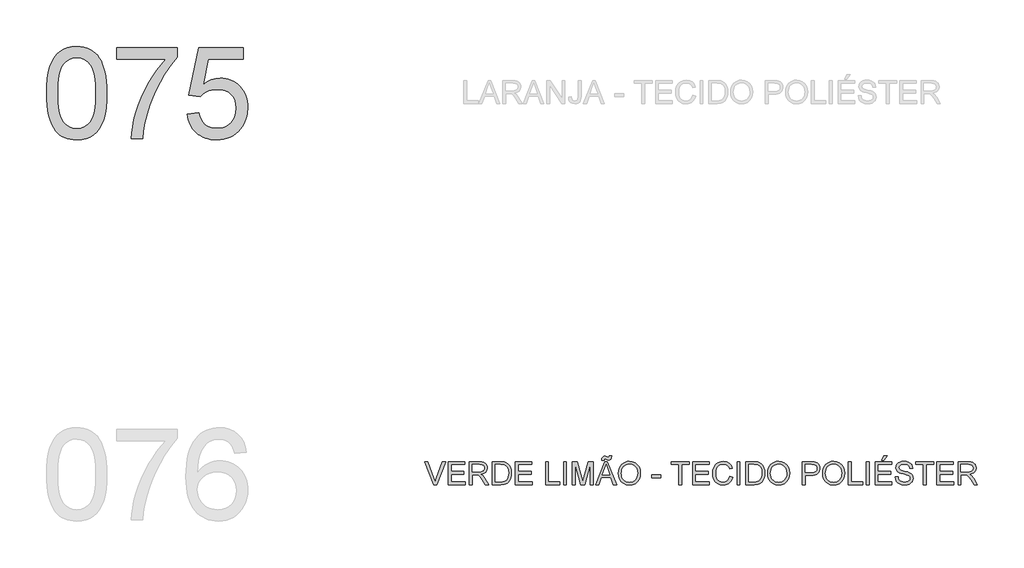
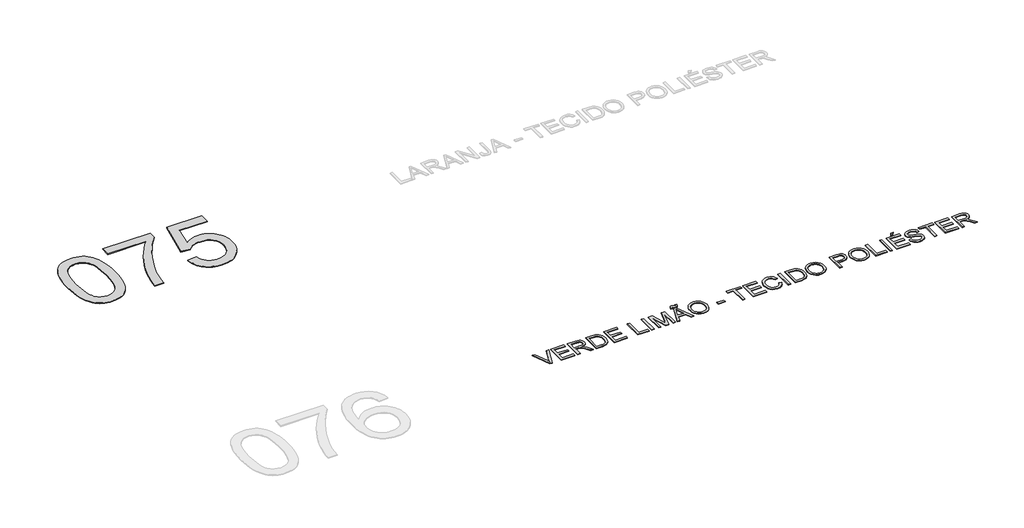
# One storey, part 7 of 39: 2 proxies.
"""IFC4 building model written with IfcOpenShell, lengths in millimetres."""

from ifc_helpers import new_model, si_unit, origin, origin_with_axes, place, context, project, spatial, polyline, outline, extrude, element, save

model = new_model("IFC4")

# Units and contexts
model_context = context("Model", 3, world=origin())
ifc_project = project(units=[si_unit("LENGTHUNIT", "METRE", prefix="MILLI")], contexts=[model_context])

# Site, building, storey
site = spatial("IfcSite", under=ifc_project)
building = spatial("IfcBuilding", under=site)
storey = spatial("IfcBuildingStorey", under=building, Name="Marelli - Linha PROFIT - Planta Baixa", Elevation=0.0)

# Proxies
placement = place(None, origin())
element("IfcBuildingElementProxy", 1, Name="1200mm Arial", ObjectType="1200mm Arial", at=placement, inside=storey, context=model_context, shape_type="SweptSolid", body=[
    extrude(outline(polyline([(-25181.1313792, -119395.792664), (-25178.3630672, -119294.4319773), (-25170.0581311, -119202.8385576), (-25156.2165711, -119121.0124048), (-25136.838387, -119048.953519), (-25112.0063523, -118986.073289), (-25081.8032405, -118931.7831035), (-25046.2290516, -118886.0829627), (-25005.2837855, -118848.9728664), (-24958.8294866, -118820.2596767), (-24906.728199, -118799.7502555), (-24848.9799228, -118787.4446027), (-24785.584658, -118783.3427185), (-24737.9439396, -118785.7707396), (-24692.7312424, -118793.0548031), (-24649.9465664, -118805.194909), (-24609.5899115, -118822.1910572), (-24572.6361651, -118843.7581391), (-24540.0602144, -118869.6110463), (-24511.8620595, -118899.7497788), (-24488.0417003, -118934.1743365), (-24467.4035204, -118972.7467637), (-24448.7519032, -119015.3291046), (-24417.4083572, -119112.5235278), (-24405.4337983, -119169.6831928), (-24396.8805419, -119235.9479371), (-24391.7485881, -119311.3177609), (-24390.0379368, -119395.792664), (-24392.7786576, -119496.5095573), (-24401.0008202, -119587.6431245), (-24414.7044246, -119669.1933658), (-24433.8894706, -119741.1602811), (-24458.5283672, -119804.0681023), (-24488.5935233, -119858.4410612), (-24524.0849388, -119904.2791578), (-24565.0026137, -119941.5823921), (-24611.5120949, -119970.4887199), (-24663.7789294, -119991.1360968), (-24721.8031171, -120003.524523), (-24785.584658, -120007.6539984), (-24828.2589694, -120005.8605737), (-24868.5788361, -120000.4802995), (-24906.544258, -119991.5131759), (-24942.1552351, -119978.9592028), (-24975.4117675, -119962.8183803), (-25006.3138551, -119943.0907083), (-25034.8614979, -119919.7761868), (-25061.054696, -119892.8748159), (-25089.1976686, -119850.2786794), (-25113.5882449, -119802.0999336), (-25134.2264248, -119748.3385785), (-25151.1122084, -119688.9946142), (-25164.2455956, -119624.0680406), (-25173.6265865, -119553.5588577), (-25179.255181, -119477.4670655), (-25181.1313792, -119395.792664)]), holes=[polyline([(-25030.446914, -119395.4983584), (-25026.03233, -119526.4919399), (-25012.7885782, -119632.5247279), (-25002.8557643, -119676.1808245), (-24990.7156585, -119713.5967226), (-24976.3682607, -119744.7724225), (-24959.8135709, -119769.7079239), (-24922.4367602, -119807.884878), (-24880.9396711, -119835.1541309), (-24835.3223037, -119851.5156826), (-24785.584658, -119856.9695332), (-24735.8470122, -119851.4972885), (-24690.2296448, -119835.0805545), (-24648.7325558, -119807.7193311), (-24611.3557451, -119769.4136183), (-24594.8010553, -119744.418336), (-24580.4536575, -119713.2104465), (-24568.3135516, -119675.7899498), (-24558.3807378, -119632.1568459), (-24545.1369859, -119526.2528166), (-24540.722402, -119395.4983584), (-24544.9898331, -119267.9720648), (-24557.7921266, -119163.8062779), (-24567.3938467, -119120.4835744), (-24579.1292823, -119083.0009976), (-24592.9984335, -119051.3585475), (-24609.0013003, -119025.5562241), (-24645.7527116, -118985.5122689), (-24687.7280473, -118956.9094438), (-24734.9273073, -118939.7477487), (-24787.3504916, -118934.0271837), (-24836.8306199, -118939.067167), (-24881.6754351, -118954.187117), (-24921.8849372, -118979.3870337), (-24957.4591261, -119014.666917), (-24974.5656389, -119043.2145599), (-24989.3912833, -119077.2068562), (-25001.9360594, -119116.6438061), (-25012.199967, -119161.5254095), (-25025.8851772, -119267.6225769), (-25030.446914, -119395.4983584)])]), origin_with_axes(), (0.0, 0.0, 1.0), 10.0),
    extrude(outline(polyline([(-24258.1890297, -118952.8627418), (-24258.1890297, -118802.1782766), (-23467.0955873, -118802.1782766), (-23467.0955873, -118924.0207934), (-23523.6114588, -118990.5246611), (-23579.8514188, -119066.7222194), (-23635.8154673, -119152.6134682), (-23691.5036043, -119248.1984076), (-23743.8991975, -119349.3383651), (-23789.9856144, -119451.8946683), (-23829.7628552, -119555.8673172), (-23863.2309197, -119661.2563118), (-23883.1701238, -119737.7941609), (-23899.1362024, -119817.9004653), (-23911.1291555, -119901.5752251), (-23919.1489829, -119988.8184403), (-24069.8334482, -119988.8184403), (-24065.0969675, -119914.8189769), (-24053.5362758, -119833.4986619), (-24035.1513731, -119744.8574952), (-24009.9422594, -119648.8954767), (-23978.2032402, -119550.1651463), (-23940.2286213, -119453.2190435), (-23896.0184025, -119358.0571684), (-23845.5725839, -119264.679521), (-23791.1628368, -119175.8268221), (-23735.0608326, -119094.2397926), (-23677.2665711, -119019.9184325), (-23617.7800525, -118952.8627418), (-24258.1890297, -118952.8627418)])), origin_with_axes(), (0.0, 0.0, 1.0), 10.0),
    extrude(outline(polyline([(-23335.2466802, -119668.6139517), (-23184.562215, -119649.7783935), (-23173.3050259, -119698.2192552), (-23156.8974889, -119740.2405761), (-23135.339604, -119775.8423562), (-23108.6313712, -119805.0245955), (-23076.8279727, -119827.7505057), (-23039.9845909, -119843.9832988), (-22998.1012257, -119853.7229746), (-22951.1778772, -119856.9695332), (-22893.788286, -119852.4537817), (-22843.1677235, -119838.9065272), (-22799.3161896, -119816.3277698), (-22762.2336845, -119784.7175093), (-22732.7479426, -119745.6392444), (-22711.6866984, -119700.6564734), (-22699.0499518, -119649.7691965), (-22694.837703, -119592.9774135), (-22698.7832374, -119539.3034304), (-22710.6198406, -119491.5891356), (-22730.3475126, -119449.8345291), (-22757.9662534, -119414.039611), (-22793.5680335, -119385.3264213), (-22837.2448233, -119364.817), (-22888.996623, -119352.5113473), (-22948.8234325, -119348.4094631), (-22987.1107511, -119350.0465379), (-23021.9215849, -119354.9577626), (-23053.2559339, -119363.143137), (-23081.1137979, -119374.6026611), (-23128.3866343, -119404.6954083), (-23165.7266568, -119442.5872538), (-23316.4111221, -119423.7516957), (-23184.562215, -118802.1782766), (-22600.6599122, -118802.1782766), (-22600.6599122, -118952.8627418), (-23062.7196982, -118952.8627418), (-23127.1726237, -119284.8394543), (-23073.9952813, -119246.7268796), (-23019.5303519, -119219.503612), (-22963.7778356, -119203.1696514), (-22906.7377322, -119197.7249978), (-22869.2988414, -119199.4126565), (-22833.3544712, -119204.4756324), (-22798.9046216, -119212.9139257), (-22765.9492927, -119224.7275363), (-22734.4884843, -119239.9164642), (-22704.5221965, -119258.4807093), (-22676.0504294, -119280.4202718), (-22649.0731828, -119305.7351516), (-22624.4825707, -119333.7033803), (-22603.1707069, -119363.6029895), (-22585.1375913, -119395.4339791), (-22570.383224, -119429.1963492), (-22558.907605, -119464.8900998), (-22550.7107343, -119502.5152308), (-22545.7926119, -119542.0717424), (-22544.1532378, -119583.5596344), (-22550.0577438, -119661.6241938), (-22557.4383763, -119698.6147284), (-22567.7712619, -119734.2440996), (-22581.0564004, -119768.5123075), (-22597.293792, -119801.4193519), (-22616.4834366, -119832.965233), (-22638.6253341, -119863.1499507), (-22668.6261108, -119897.0180869), (-22701.2388497, -119926.3704716), (-22736.4635508, -119951.2071048), (-22774.300214, -119971.5279865), (-22814.7488393, -119987.3331167), (-22857.8094269, -119998.6224954), (-22903.4819766, -120005.3961227), (-22951.7664884, -120007.6539984), (-23029.5275452, -120001.8506599), (-23065.5868785, -119994.5964869), (-23099.7654151, -119984.4406445), (-23132.063155, -119971.383133), (-23162.4800982, -119955.4239522), (-23191.0162447, -119936.5631021), (-23217.6715945, -119914.8005828), (-23242.0092878, -119890.6422321), (-23263.5924646, -119864.5938875), (-23282.421125, -119836.6555493), (-23298.4952689, -119806.8272173), (-23311.8148964, -119775.1088915), (-23322.3800074, -119741.500572), (-23335.2466802, -119668.6139517)])), origin_with_axes(), (0.0, 0.0, 1.0), 10.0),
])
element("IfcBuildingElementProxy", 2, Name="300mm Arial", ObjectType="300mm Arial", at=placement, inside=storey, context=model_context, shape_type="SweptSolid", body=[
    extrude(outline(polyline([(-20106.6509498, -124530.5663201), (-20226.5804802, -124229.1973896), (-20186.2606136, -124229.1973896), (-20105.9887622, -124446.3213432), (-20089.728378, -124495.2496485), (-20073.688723, -124446.3213432), (-19993.1961425, -124229.1973896), (-19952.8762758, -124229.1973896), (-20067.7290347, -124530.5663201), (-20106.6509498, -124530.5663201)])), origin_with_axes(), (0.0, 0.0, 1.0), 10.0),
    extrude(outline(polyline([(-19917.8539099, -124530.5663201), (-19917.8539099, -124229.1973896), (-19701.2449911, -124229.1973896), (-19701.2449911, -124266.8685059), (-19880.1827936, -124266.8685059), (-19880.1827936, -124356.3374072), (-19710.6627702, -124356.3374072), (-19710.6627702, -124394.0085235), (-19880.1827936, -124394.0085235), (-19880.1827936, -124492.8952038), (-19696.5361016, -124492.8952038), (-19696.5361016, -124530.5663201), (-19917.8539099, -124530.5663201)])), origin_with_axes(), (0.0, 0.0, 1.0), 10.0),
    extrude(outline(polyline([(-19640.0294271, -124530.5663201), (-19640.0294271, -124229.1973896), (-19510.1670828, -124229.1973896), (-19475.2642785, -124231.2299376), (-19449.8712238, -124237.3275817), (-19431.3115772, -124248.5847708), (-19416.908997, -124266.0959537), (-19407.6659619, -124287.8101885), (-19404.5849502, -124311.6765329), (-19409.6893129, -124341.3646099), (-19425.0024009, -124365.9759154), (-19436.6021801, -124376.0052983), (-19450.9840669, -124384.0205273), (-19488.0941631, -124394.0085235), (-19466.683431, -124410.1217548), (-19436.1492254, -124448.8965171), (-19385.8965449, -124530.5663201), (-19429.6745023, -124530.5663201), (-19468.890723, -124468.0999573), (-19497.2176366, -124426.750021), (-19517.1200525, -124407.2154871), (-19535.0359057, -124400.0417882), (-19556.8880962, -124398.717413), (-19602.3583108, -124398.717413), (-19602.3583108, -124530.5663201), (-19640.0294271, -124530.5663201)]), holes=[polyline([(-19602.3583108, -124361.0462967), (-19518.0397575, -124361.0462967), (-19493.8239252, -124359.7127245), (-19475.0343523, -124355.7120078), (-19460.8892896, -124348.7774322), (-19450.6069878, -124338.6422832), (-19444.3437968, -124326.3826157), (-19442.2560665, -124313.0744845), (-19446.2383891, -124294.6987789), (-19458.1853569, -124279.8915286), (-19478.7407634, -124270.1242616), (-19508.548402, -124266.8685059), (-19602.3583108, -124266.8685059), (-19602.3583108, -124361.0462967)])]), origin_with_axes(), (0.0, 0.0, 1.0), 10.0),
    extrude(outline(polyline([(-19338.6604967, -124530.5663201), (-19338.6604967, -124229.1973896), (-19234.6970448, -124229.1973896), (-19180.9126971, -124233.5383972), (-19156.8900029, -124241.9077126), (-19136.6197049, -124255.0962821), (-19115.7791899, -124278.0521186), (-19100.9351514, -124306.5997614), (-19092.0508012, -124340.1873876), (-19089.0893511, -124378.2631741), (-19091.094308, -124410.6091985), (-19097.1091786, -124439.0740679), (-19106.2694403, -124463.3082943), (-19117.7105704, -124482.9623899), (-19130.8807458, -124498.477813), (-19145.2281436, -124510.2960221), (-19161.7000599, -124519.0608107), (-19181.2437909, -124525.4159721), (-19229.6938497, -124530.5663201), (-19338.6604967, -124530.5663201)]), holes=[polyline([(-19300.9893804, -124492.8952038), (-19234.3291628, -124492.8952038), (-19206.7564073, -124491.5340404), (-19185.8423159, -124487.4505502), (-19170.0601783, -124480.8838566), (-19157.8832842, -124472.0730828), (-19144.7958823, -124455.7667134), (-19134.9642359, -124434.6594839), (-19128.8114096, -124408.6594239), (-19126.7604675, -124377.6745629), (-19130.7795782, -124336.6189322), (-19142.8369106, -124306.3054558), (-19160.6515963, -124285.4833349), (-19181.9427667, -124272.9017706), (-19203.6110162, -124268.3768221), (-19235.3592324, -124266.8685059), (-19300.9893804, -124266.8685059), (-19300.9893804, -124492.8952038)])]), origin_with_axes(), (0.0, 0.0, 1.0), 10.0),
    extrude(outline(polyline([(-19037.2915662, -124530.5663201), (-19037.2915662, -124229.1973896), (-18820.6826475, -124229.1973896), (-18820.6826475, -124266.8685059), (-18999.6204499, -124266.8685059), (-18999.6204499, -124356.3374072), (-18830.1004265, -124356.3374072), (-18830.1004265, -124394.0085235), (-18999.6204499, -124394.0085235), (-18999.6204499, -124492.8952038), (-18815.9737579, -124492.8952038), (-18815.9737579, -124530.5663201), (-19037.2915662, -124530.5663201)])), origin_with_axes(), (0.0, 0.0, 1.0), 10.0),
    extrude(outline(polyline([(-18641.744845, -124530.5663201), (-18641.744845, -124229.1973896), (-18604.0737287, -124229.1973896), (-18604.0737287, -124492.8952038), (-18453.3892635, -124492.8952038), (-18453.3892635, -124530.5663201), (-18641.744845, -124530.5663201)])), origin_with_axes(), (0.0, 0.0, 1.0), 10.0),
    extrude(outline(polyline([(-18406.3003681, -124530.5663201), (-18406.3003681, -124229.1973896), (-18368.6292518, -124229.1973896), (-18368.6292518, -124530.5663201), (-18406.3003681, -124530.5663201)])), origin_with_axes(), (0.0, 0.0, 1.0), 10.0),
    extrude(outline(polyline([(-18293.2870192, -124530.5663201), (-18293.2870192, -124229.1973896), (-18228.4662116, -124229.1973896), (-18166.8091892, -124441.6124536), (-18154.3747778, -124485.9790223), (-18140.9102968, -124437.9336337), (-18080.283344, -124229.1973896), (-18015.4625364, -124229.1973896), (-18015.4625364, -124530.5663201), (-18053.1336527, -124530.5663201), (-18053.1336527, -124266.8685059), (-18128.8437673, -124530.5663201), (-18179.9057883, -124530.5663201), (-18255.6159029, -124266.8685059), (-18255.6159029, -124530.5663201), (-18293.2870192, -124530.5663201)])), origin_with_axes(), (0.0, 0.0, 1.0), 10.0),
    extrude(outline(polyline([(-17907.158077, -124210.3618315), (-17904.3069916, -124187.2036599), (-17895.4594296, -124169.2326244), (-17882.1237073, -124157.6995239), (-17865.5138352, -124153.855157), (-17851.6078958, -124156.8901835), (-17835.3475116, -124165.9952628), (-17820.117197, -124172.6907152), (-17812.1341577, -124168.9015306), (-17808.2713967, -124153.855157), (-17775.30917, -124153.855157), (-17778.5925168, -124178.5768271), (-17787.2653348, -124196.2351629), (-17800.1687958, -124206.8301643), (-17816.1440714, -124210.3618315), (-17830.1419814, -124207.4923519), (-17845.942513, -124198.8839132), (-17861.8350152, -124191.5262733), (-17870.8113359, -124196.3087393), (-17874.1958503, -124210.3618315), (-17907.158077, -124210.3618315)])), origin_with_axes(), (0.0, 0.0, 1.0), 10.0),
    extrude(outline(polyline([(-17984.6340252, -124530.5663201), (-17864.3366128, -124229.1973896), (-17832.2573028, -124229.1973896), (-17711.9598904, -124530.5663201), (-17751.7647223, -124530.5663201), (-17786.2720534, -124436.3885293), (-17910.3954386, -124436.3885293), (-17944.8291933, -124530.5663201), (-17984.6340252, -124530.5663201)]), holes=[polyline([(-17896.5630756, -124398.717413), (-17800.03084, -124398.717413), (-17827.1805313, -124324.6259792), (-17848.2969578, -124266.8685059), (-17867.0589396, -124318.1512561), (-17896.5630756, -124398.717413)])]), origin_with_axes(), (0.0, 0.0, 1.0), 10.0),
    extrude(outline(polyline([(-17685.8402687, -124383.8549804), (-17683.3294741, -124348.5061192), (-17675.7970903, -124317.213157), (-17663.2431172, -124289.9760937), (-17645.6675549, -124266.7949295), (-17624.1234655, -124248.2858666), (-17599.6639114, -124235.0651074), (-17572.2888924, -124227.1326519), (-17541.9984086, -124224.4885001), (-17502.4694882, -124229.454907), (-17467.024058, -124244.3541278), (-17437.5934984, -124268.1376988), (-17416.1091899, -124299.7571563), (-17402.9758027, -124337.68579), (-17398.5980069, -124380.3968896), (-17403.2057289, -124423.6782064), (-17417.0288949, -124462.140269), (-17439.3041497, -124493.8149087), (-17469.2681382, -124516.733957), (-17504.4100658, -124530.6398965), (-17542.2191378, -124535.2752096), (-17582.3550635, -124530.1524528), (-17618.0028288, -124514.7841825), (-17647.359812, -124490.5591531), (-17668.6233914, -124458.8661192), (-17681.5360494, -124422.3998164), (-17685.8402687, -124383.8549804)]), holes=[polyline([(-17648.1691524, -124384.2228624), (-17646.2860565, -124409.1974513), (-17640.6367686, -124431.3669401), (-17631.2212888, -124450.7313286), (-17618.039617, -124467.2906169), (-17602.0160569, -124480.5527628), (-17584.0749118, -124490.0257242), (-17564.2161819, -124495.709501), (-17542.439867, -124497.6040933), (-17520.2910717, -124495.6911069), (-17500.1978169, -124489.9521478), (-17482.1601029, -124480.3872159), (-17466.1779294, -124466.9963113), (-17453.0928267, -124450.0875351), (-17443.7463248, -124429.9689885), (-17438.1384236, -124406.6406715), (-17436.2691232, -124380.102584), (-17439.4696966, -124346.7540812), (-17449.0714166, -124317.9305269), (-17464.8259631, -124294.358488), (-17486.4850156, -124276.7645316), (-17512.6138343, -124265.8108452), (-17541.7776794, -124262.1596164), (-17562.7975369, -124263.9185522), (-17582.2998812, -124269.1953595), (-17600.2847122, -124277.9900385), (-17616.75203, -124290.302589), (-17630.4970211, -124306.7262208), (-17640.3148718, -124327.8541437), (-17646.2055823, -124353.6863575), (-17648.1691524, -124384.2228624)])]), origin_with_axes(), (0.0, 0.0, 1.0), 10.0),
    extrude(outline(polyline([(-17252.6224312, -124441.0974188), (-17252.6224312, -124403.4263025), (-17134.9001928, -124403.4263025), (-17134.9001928, -124441.0974188), (-17252.6224312, -124441.0974188)])), origin_with_axes(), (0.0, 0.0, 1.0), 10.0),
    extrude(outline(polyline([(-16894.7468263, -124530.5663201), (-16894.7468263, -124266.8685059), (-16993.6335066, -124266.8685059), (-16993.6335066, -124229.1973896), (-16758.1890297, -124229.1973896), (-16758.1890297, -124266.8685059), (-16857.07571, -124266.8685059), (-16857.07571, -124530.5663201), (-16894.7468263, -124530.5663201)])), origin_with_axes(), (0.0, 0.0, 1.0), 10.0),
    extrude(outline(polyline([(-16715.8090239, -124530.5663201), (-16715.8090239, -124229.1973896), (-16499.2001051, -124229.1973896), (-16499.2001051, -124266.8685059), (-16678.1379076, -124266.8685059), (-16678.1379076, -124356.3374072), (-16508.6178842, -124356.3374072), (-16508.6178842, -124394.0085235), (-16678.1379076, -124394.0085235), (-16678.1379076, -124492.8952038), (-16494.4912156, -124492.8952038), (-16494.4912156, -124530.5663201), (-16715.8090239, -124530.5663201)])), origin_with_axes(), (0.0, 0.0, 1.0), 10.0),
    extrude(outline(polyline([(-16226.0845119, -124423.4390831), (-16188.4133956, -124433.1511677), (-16195.8676045, -124456.5783531), (-16205.7958198, -124477.0486868), (-16218.1980416, -124494.5621691), (-16233.0742698, -124509.1187997), (-16250.0888121, -124520.5622291), (-16268.9059761, -124528.7361071), (-16289.5257619, -124533.640434), (-16311.9481696, -124535.2752096), (-16355.6433535, -124530.3271968), (-16390.3438227, -124515.4831583), (-16416.941691, -124491.2581289), (-16436.3290721, -124458.1671434), (-16448.1656753, -124419.2636224), (-16452.1112097, -124377.6009865), (-16447.6506405, -124333.6574821), (-16434.268933, -124295.7104543), (-16412.6650628, -124264.9647166), (-16383.5380058, -124242.6250824), (-16348.9938865, -124229.0226457), (-16311.1388292, -124224.4885001), (-16269.8348782, -124230.3562179), (-16251.866142, -124237.6908652), (-16235.686232, -124247.9593714), (-16221.5618626, -124260.8904235), (-16209.7597483, -124276.2127086), (-16193.1222851, -124314.0309777), (-16230.7934014, -124323.0072984), (-16243.8532122, -124295.5357104), (-16261.695489, -124276.6909552), (-16284.5409609, -124265.7924511), (-16312.6103571, -124262.1596164), (-16344.9655786, -124266.1879242), (-16371.5450528, -124278.2728478), (-16391.7141832, -124297.1451941), (-16404.8383733, -124321.5357704), (-16412.0396634, -124349.1085259), (-16414.4400934, -124377.5274101), (-16411.598205, -124412.3290468), (-16403.0725398, -124442.421794), (-16388.541201, -124466.6560205), (-16367.6822918, -124483.8820949), (-16342.6755132, -124494.1735937), (-16315.7005659, -124497.6040933), (-16284.2558524, -124492.931992), (-16258.0534573, -124478.9156879), (-16238.270603, -124455.702334), (-16226.0845119, -124423.4390831)])), origin_with_axes(), (0.0, 0.0, 1.0), 10.0),
    extrude(outline(polyline([(-16131.9067211, -124530.5663201), (-16131.9067211, -124229.1973896), (-16094.2356048, -124229.1973896), (-16094.2356048, -124530.5663201), (-16131.9067211, -124530.5663201)])), origin_with_axes(), (0.0, 0.0, 1.0), 10.0),
    extrude(outline(polyline([(-16018.8933722, -124530.5663201), (-16018.8933722, -124229.1973896), (-15914.9299204, -124229.1973896), (-15861.1455727, -124233.5383972), (-15837.1228784, -124241.9077126), (-15816.8525804, -124255.0962821), (-15796.0120654, -124278.0521186), (-15781.1680269, -124306.5997614), (-15772.2836767, -124340.1873876), (-15769.3222267, -124378.2631741), (-15771.3271835, -124410.6091985), (-15777.3420542, -124439.0740679), (-15786.5023158, -124463.3082943), (-15797.9434459, -124482.9623899), (-15811.1136213, -124498.477813), (-15825.4610191, -124510.2960221), (-15841.9329355, -124519.0608107), (-15861.4766665, -124525.4159721), (-15909.9267252, -124530.5663201), (-16018.8933722, -124530.5663201)]), holes=[polyline([(-15981.2222559, -124492.8952038), (-15914.5620384, -124492.8952038), (-15886.9892828, -124491.5340404), (-15866.0751914, -124487.4505502), (-15850.2930538, -124480.8838566), (-15838.1161598, -124472.0730828), (-15825.0287578, -124455.7667134), (-15815.1971115, -124434.6594839), (-15809.0442851, -124408.6594239), (-15806.993343, -124377.6745629), (-15811.0124538, -124336.6189322), (-15823.0697862, -124306.3054558), (-15840.8844718, -124285.4833349), (-15862.1756423, -124272.9017706), (-15883.8438918, -124268.3768221), (-15915.592108, -124266.8685059), (-15981.2222559, -124266.8685059), (-15981.2222559, -124492.8952038)])]), origin_with_axes(), (0.0, 0.0, 1.0), 10.0),
    extrude(outline(polyline([(-15731.6511104, -124383.8549804), (-15729.1403157, -124348.5061192), (-15721.6079319, -124317.213157), (-15709.0539588, -124289.9760937), (-15691.4783965, -124266.7949295), (-15669.9343071, -124248.2858666), (-15645.474753, -124235.0651074), (-15618.099734, -124227.1326519), (-15587.8092502, -124224.4885001), (-15548.2803299, -124229.454907), (-15512.8348996, -124244.3541278), (-15483.40434, -124268.1376988), (-15461.9200315, -124299.7571563), (-15448.7866443, -124337.68579), (-15444.4088485, -124380.3968896), (-15449.0165705, -124423.6782064), (-15462.8397365, -124462.140269), (-15485.1149913, -124493.8149087), (-15515.0789798, -124516.733957), (-15550.2209074, -124530.6398965), (-15588.0299794, -124535.2752096), (-15628.1659051, -124530.1524528), (-15663.8136705, -124514.7841825), (-15693.1706537, -124490.5591531), (-15714.434233, -124458.8661192), (-15727.346891, -124422.3998164), (-15731.6511104, -124383.8549804)]), holes=[polyline([(-15693.9799941, -124384.2228624), (-15692.0968981, -124409.1974513), (-15686.4476102, -124431.3669401), (-15677.0321304, -124450.7313286), (-15663.8504587, -124467.2906169), (-15647.8268985, -124480.5527628), (-15629.8857534, -124490.0257242), (-15610.0270235, -124495.709501), (-15588.2507086, -124497.6040933), (-15566.1019133, -124495.6911069), (-15546.0086585, -124489.9521478), (-15527.9709445, -124480.3872159), (-15511.988771, -124466.9963113), (-15498.9036683, -124450.0875351), (-15489.5571664, -124429.9689885), (-15483.9492652, -124406.6406715), (-15482.0799648, -124380.102584), (-15485.2805382, -124346.7540812), (-15494.8822583, -124317.9305269), (-15510.6368047, -124294.358488), (-15532.2958572, -124276.7645316), (-15558.4246759, -124265.8108452), (-15587.5885211, -124262.1596164), (-15608.6083786, -124263.9185522), (-15628.1107228, -124269.1953595), (-15646.0955539, -124277.9900385), (-15662.5628717, -124290.302589), (-15676.3078627, -124306.7262208), (-15686.1257135, -124327.8541437), (-15692.0164239, -124353.6863575), (-15693.9799941, -124384.2228624)])]), origin_with_axes(), (0.0, 0.0, 1.0), 10.0),
    extrude(outline(polyline([(-15274.8888252, -124530.5663201), (-15274.8888252, -124229.1973896), (-15163.1998514, -124229.1973896), (-15118.1710952, -124232.0668692), (-15098.0939353, -124237.4287493), (-15081.5668367, -124246.1567496), (-15068.2587055, -124258.6463433), (-15057.838448, -124275.2930036), (-15051.1062075, -124294.9287051), (-15048.8621273, -124316.3854225), (-15050.3773413, -124334.8852883), (-15054.9229832, -124351.9044291), (-15062.499053, -124367.4428449), (-15073.1055508, -124381.5005356), (-15087.66678, -124393.1531978), (-15107.1070442, -124401.476528), (-15131.4263433, -124406.470526), (-15160.6246774, -124408.1351921), (-15237.2177088, -124408.1351921), (-15237.2177088, -124530.5663201), (-15274.8888252, -124530.5663201)]), holes=[polyline([(-15237.2177088, -124370.4640758), (-15158.4173855, -124370.4640758), (-15125.0137003, -124367.005985), (-15102.9407806, -124356.6317127), (-15090.6351279, -124339.9850525), (-15086.5332436, -124317.7097977), (-15088.9520677, -124300.7872259), (-15096.2085401, -124286.5134045), (-15107.4013498, -124275.7712502), (-15121.629186, -124269.4436799), (-15159.3003023, -124266.8685059), (-15237.2177088, -124266.8685059), (-15237.2177088, -124370.4640758)])]), origin_with_axes(), (0.0, 0.0, 1.0), 10.0),
    extrude(outline(polyline([(-15011.191011, -124383.8549804), (-15008.6802164, -124348.5061192), (-15001.1478325, -124317.213157), (-14988.5938595, -124289.9760937), (-14971.0182971, -124266.7949295), (-14949.4742078, -124248.2858666), (-14925.0146536, -124235.0651074), (-14897.6396347, -124227.1326519), (-14867.3491509, -124224.4885001), (-14827.8202305, -124229.454907), (-14792.3748003, -124244.3541278), (-14762.9442407, -124268.1376988), (-14741.4599321, -124299.7571563), (-14728.3265449, -124337.68579), (-14723.9487492, -124380.3968896), (-14728.5564712, -124423.6782064), (-14742.3796371, -124462.140269), (-14764.6548919, -124493.8149087), (-14794.6188804, -124516.733957), (-14829.760808, -124530.6398965), (-14867.5698801, -124535.2752096), (-14907.7058058, -124530.1524528), (-14943.3535711, -124514.7841825), (-14972.7105543, -124490.5591531), (-14993.9741336, -124458.8661192), (-15006.8867917, -124422.3998164), (-15011.191011, -124383.8549804)]), holes=[polyline([(-14973.5198947, -124384.2228624), (-14971.6367987, -124409.1974513), (-14965.9875109, -124431.3669401), (-14956.572031, -124450.7313286), (-14943.3903593, -124467.2906169), (-14927.3667991, -124480.5527628), (-14909.4256541, -124490.0257242), (-14889.5669241, -124495.709501), (-14867.7906093, -124497.6040933), (-14845.6418139, -124495.6911069), (-14825.5485592, -124489.9521478), (-14807.5108451, -124480.3872159), (-14791.5286717, -124466.9963113), (-14778.443569, -124450.0875351), (-14769.097067, -124429.9689885), (-14763.4891659, -124406.6406715), (-14761.6198655, -124380.102584), (-14764.8204388, -124346.7540812), (-14774.4221589, -124317.9305269), (-14790.1767054, -124294.358488), (-14811.8357578, -124276.7645316), (-14837.9645765, -124265.8108452), (-14867.1284217, -124262.1596164), (-14888.1482792, -124263.9185522), (-14907.6506235, -124269.1953595), (-14925.6354545, -124277.9900385), (-14942.1027723, -124290.302589), (-14955.8477634, -124306.7262208), (-14965.6656141, -124327.8541437), (-14971.5563246, -124353.6863575), (-14973.5198947, -124384.2228624)])]), origin_with_axes(), (0.0, 0.0, 1.0), 10.0),
    extrude(outline(polyline([(-14672.1509643, -124530.5663201), (-14672.1509643, -124229.1973896), (-14634.4798479, -124229.1973896), (-14634.4798479, -124492.8952038), (-14483.7953827, -124492.8952038), (-14483.7953827, -124530.5663201), (-14672.1509643, -124530.5663201)])), origin_with_axes(), (0.0, 0.0, 1.0), 10.0),
    extrude(outline(polyline([(-14436.7064873, -124530.5663201), (-14436.7064873, -124229.1973896), (-14399.035371, -124229.1973896), (-14399.035371, -124530.5663201), (-14436.7064873, -124530.5663201)])), origin_with_axes(), (0.0, 0.0, 1.0), 10.0),
    extrude(outline(polyline([(-14323.6931384, -124530.5663201), (-14323.6931384, -124229.1973896), (-14107.0842197, -124229.1973896), (-14107.0842197, -124266.8685059), (-14286.0220221, -124266.8685059), (-14286.0220221, -124356.3374072), (-14116.5019987, -124356.3374072), (-14116.5019987, -124394.0085235), (-14286.0220221, -124394.0085235), (-14286.0220221, -124492.8952038), (-14102.3753301, -124492.8952038), (-14102.3753301, -124530.5663201), (-14323.6931384, -124530.5663201)])), origin_with_axes(), (0.0, 0.0, 1.0), 10.0),
    extrude(outline(polyline([(-14238.9331267, -124210.3618315), (-14210.6797895, -124153.855157), (-14163.5908941, -124153.855157), (-14210.6797895, -124210.3618315), (-14238.9331267, -124210.3618315)])), origin_with_axes(), (0.0, 0.0, 1.0), 10.0),
    extrude(outline(polyline([(-14059.9953243, -124426.9707502), (-14022.324208, -124426.9707502), (-14018.0015945, -124447.8756446), (-14010.1841021, -124464.6786547), (-13997.988814, -124478.0143771), (-13980.5328133, -124488.517408), (-13959.1956576, -124495.332422), (-13935.3569043, -124497.6040933), (-13914.3692365, -124495.884245), (-13895.9935308, -124490.7247), (-13881.1035071, -124482.5577197), (-13870.572885, -124471.8155654), (-13864.309694, -124459.4823216), (-13862.2219637, -124446.5420724), (-13863.7854622, -124433.932917), (-13868.4759576, -124423.0344129), (-13878.0041013, -124413.7361954), (-13894.0805445, -124405.9279001), (-13948.9317499, -124391.5437141), (-13984.9382002, -124382.0247675), (-14007.9768102, -124372.9656733), (-14026.7295949, -124360.2921386), (-14040.0193319, -124344.9330653), (-14047.9379919, -124327.2195472), (-14050.5775452, -124307.4826782), (-14047.3125925, -124285.4189555), (-14037.5177344, -124264.845155), (-14021.4504882, -124247.4075484), (-13999.3683715, -124234.7524077), (-13972.8624737, -124227.054477), (-13943.5238846, -124224.4885001), (-13911.7388802, -124227.1740386), (-13883.9270014, -124235.2306543), (-13861.0815295, -124248.4928003), (-13844.1957459, -124266.7949295), (-13833.5087739, -124288.9966079), (-13829.2597369, -124313.9574013), (-13866.9308532, -124313.9574013), (-13873.8470347, -124291.4798114), (-13888.2680089, -124275.2562154), (-13910.8007811, -124265.4337661), (-13942.0523566, -124262.1596164), (-13974.0396961, -124265.3969779), (-13995.9838571, -124275.1090626), (-14008.675786, -124289.4012781), (-14012.9064289, -124306.3790322), (-14009.9081906, -124320.8551887), (-14000.9134759, -124332.4986539), (-13979.6498965, -124342.9097143), (-13939.4036063, -124353.541504), (-13897.869729, -124363.6398648), (-13872.7433887, -124372.4506385), (-13851.2682773, -124386.1174547), (-13836.286283, -124402.9848441), (-13827.4847063, -124422.868866), (-13824.5508474, -124445.5855792), (-13827.9261647, -124468.8081301), (-13838.0521166, -124490.6511236), (-13854.5148359, -124509.4498935), (-13876.9004553, -124523.539774), (-13903.8202203, -124532.3413507), (-13933.8853763, -124535.2752096), (-13970.7931375, -124532.1114244), (-14001.1709933, -124522.620069), (-14025.3684315, -124506.764355), (-14043.7349401, -124484.5074943), (-14055.525558, -124457.3945912), (-14059.9953243, -124426.9707502)])), origin_with_axes(), (0.0, 0.0, 1.0), 10.0),
    extrude(outline(polyline([(-13692.7019403, -124530.5663201), (-13692.7019403, -124266.8685059), (-13791.5886206, -124266.8685059), (-13791.5886206, -124229.1973896), (-13556.1441437, -124229.1973896), (-13556.1441437, -124266.8685059), (-13655.030824, -124266.8685059), (-13655.030824, -124530.5663201), (-13692.7019403, -124530.5663201)])), origin_with_axes(), (0.0, 0.0, 1.0), 10.0),
    extrude(outline(polyline([(-13513.7641378, -124530.5663201), (-13513.7641378, -124229.1973896), (-13297.1552191, -124229.1973896), (-13297.1552191, -124266.8685059), (-13476.0930215, -124266.8685059), (-13476.0930215, -124356.3374072), (-13306.5729982, -124356.3374072), (-13306.5729982, -124394.0085235), (-13476.0930215, -124394.0085235), (-13476.0930215, -124492.8952038), (-13292.4463295, -124492.8952038), (-13292.4463295, -124530.5663201), (-13513.7641378, -124530.5663201)])), origin_with_axes(), (0.0, 0.0, 1.0), 10.0),
    extrude(outline(polyline([(-13235.9396551, -124530.5663201), (-13235.9396551, -124229.1973896), (-13106.0773108, -124229.1973896), (-13071.1745065, -124231.2299376), (-13045.7814518, -124237.3275817), (-13027.2218051, -124248.5847708), (-13012.819225, -124266.0959537), (-13003.5761899, -124287.8101885), (-13000.4951782, -124311.6765329), (-13005.5995409, -124341.3646099), (-13020.9126289, -124365.9759154), (-13032.5124081, -124376.0052983), (-13046.8942948, -124384.0205273), (-13084.0043911, -124394.0085235), (-13062.593659, -124410.1217548), (-13032.0594534, -124448.8965171), (-12981.8067728, -124530.5663201), (-13025.5847302, -124530.5663201), (-13064.8009509, -124468.0999573), (-13093.1278646, -124426.750021), (-13113.0302805, -124407.2154871), (-13130.9461337, -124400.0417882), (-13152.7983242, -124398.717413), (-13198.2685388, -124398.717413), (-13198.2685388, -124530.5663201), (-13235.9396551, -124530.5663201)]), holes=[polyline([(-13198.2685388, -124361.0462967), (-13113.9499855, -124361.0462967), (-13089.7341532, -124359.7127245), (-13070.9445802, -124355.7120078), (-13056.7995175, -124348.7774322), (-13046.5172158, -124338.6422832), (-13040.2540248, -124326.3826157), (-13038.1662945, -124313.0744845), (-13042.1486171, -124294.6987789), (-13054.0955849, -124279.8915286), (-13074.6509913, -124270.1242616), (-13104.45863, -124266.8685059), (-13198.2685388, -124266.8685059), (-13198.2685388, -124361.0462967)])]), origin_with_axes(), (0.0, 0.0, 1.0), 10.0),
])

save(model, "model.ifc")
